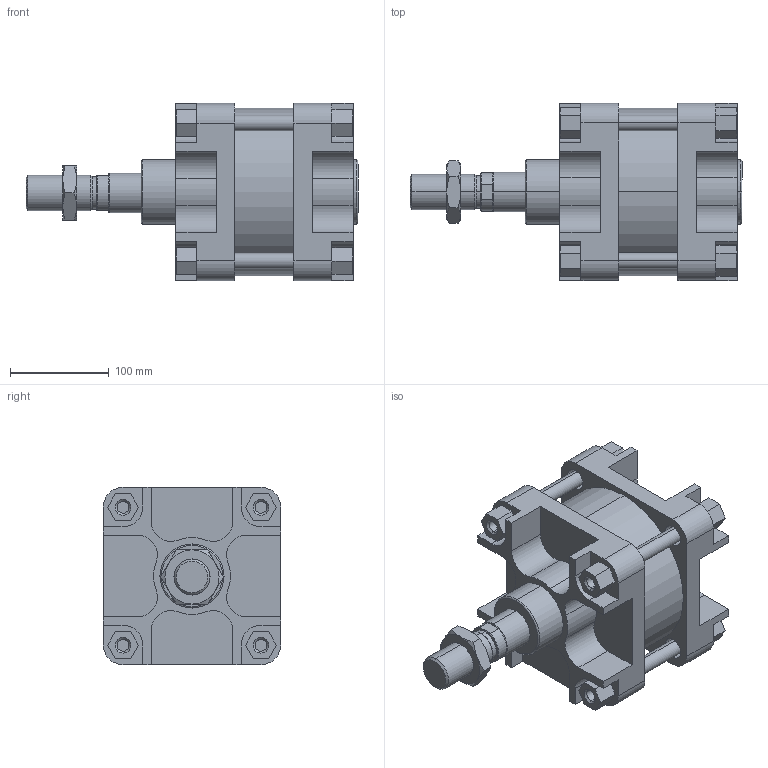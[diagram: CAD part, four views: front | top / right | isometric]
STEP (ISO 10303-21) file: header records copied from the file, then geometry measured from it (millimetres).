
FILE_DESCRIPTION(('STEP AP214'),'1');
FILE_NAME('901600000.stp','2019-05-20T07:48:15',(' '),(' '),'Spatial InterOp 3D',' ',' ');
FILE_SCHEMA(('automotive_design'));
Length unit declared in the file: millimetre
Products named in the file (4): 901600000; vis d'amorti; vis d'amorti2
Assembly tree (1 placements, depth 2):
  901600000
    901600000
  vis d'amorti
  vis d'amorti2
Bounding box: 337 x 180 x 180 mm (x, y, z)
Volume: 2829552.1 mm3; surface area: 475617.9 mm2
Topology: 19 solids, 19 shells, 381 faces, 929 edges, 598 vertices
Faces by surface type: plane 187, cylinder 136, cone 54, torus 4
Entity records: 14838 total; most frequent: CARTESIAN_POINT 2306, DIRECTION 2006, ORIENTED_EDGE 1858, EDGE_CURVE 929, AXIS2_PLACEMENT_3D 728, VERTEX_POINT 598, LINE 550, VECTOR 550
